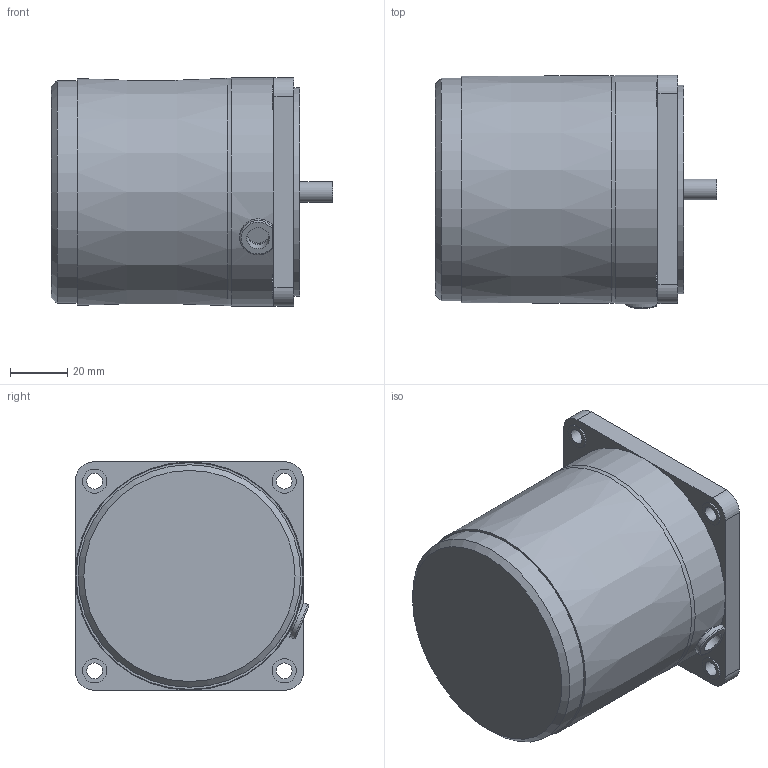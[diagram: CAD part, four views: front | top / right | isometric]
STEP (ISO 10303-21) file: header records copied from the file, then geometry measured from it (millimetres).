
FILE_DESCRIPTION((''),'2;1');
FILE_NAME('D:\STP파일\25W MOTOR\S8I15G.stp','2013-05-20T16:32:13',('leebh'),(''),'Autodesk Inventor 2011','Autodesk Inventor 2011','');
FILE_SCHEMA(('AUTOMOTIVE_DESIGN { 1 0 10303 214 1 1 1 1 }'));
Length unit declared in the file: millimetre
Products named in the file (1): 부품2
Bounding box: 98.6 x 81.79 x 80 mm (x, y, z)
Volume: 427072 mm3; surface area: 37012.7 mm2
Topology: 1 solids, 2 shells, 81 faces, 183 edges, 119 vertices
Faces by surface type: plane 46, cylinder 31, torus 2, cone 2
Full cylindrical faces by diameter (mm): 5.5 x4, 7.2 x1, 8 x1, 8.5 x4, 34 x1, 73 x1, 78 x1, 80 x1
Entity records: 2278 total; most frequent: CARTESIAN_POINT 424, DIRECTION 396, ORIENTED_EDGE 332, EDGE_CURVE 166, AXIS2_PLACEMENT_3D 153, VERTEX_POINT 119, EDGE_LOOP 119, VECTOR 90
